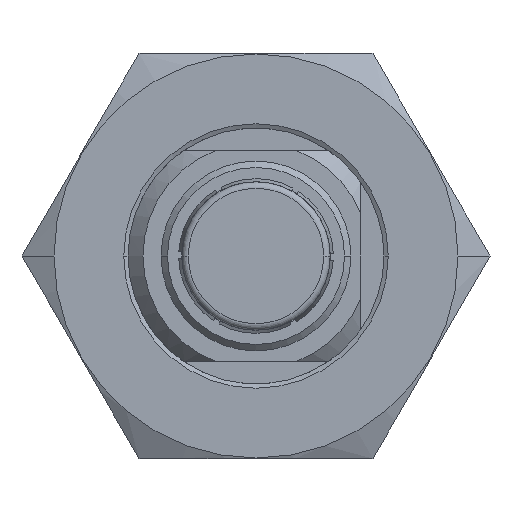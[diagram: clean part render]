
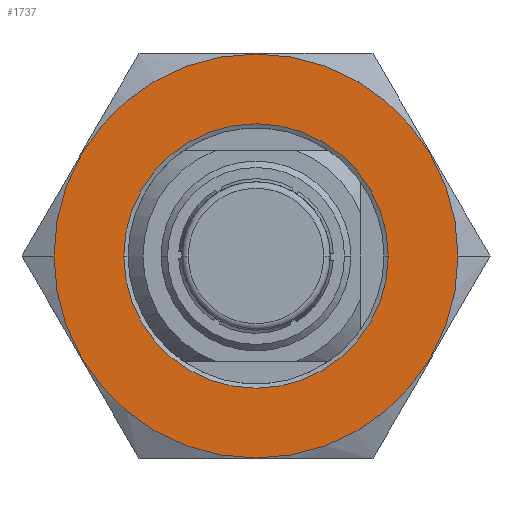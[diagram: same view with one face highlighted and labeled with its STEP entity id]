
A CAD part, front view. The second image highlights one B-rep face of the part: STEP entity #1737.
In plain terms, the highlighted planar face has unit normal (0, -1, 0) as drawn and (-1, 0, 0) by its records, which use the part's own axes.
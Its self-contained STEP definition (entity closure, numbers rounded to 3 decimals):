
#1284=CARTESIAN_POINT('',(0.,0.,0.));
#1285=DIRECTION('',(1.,0.,0.));
#1286=DIRECTION('',(0.,1.,0.));
#1287=AXIS2_PLACEMENT_3D('',#1284,#1285,#1286);
#1292=CARTESIAN_POINT('',(0.,0.,0.));
#1293=DIRECTION('',(1.,0.,0.));
#1294=DIRECTION('',(0.,-1.,0.));
#1295=AXIS2_PLACEMENT_3D('',#1292,#1293,#1294);
#1300=CARTESIAN_POINT('',(0.,0.,0.));
#1301=DIRECTION('',(1.,0.,0.));
#1302=DIRECTION('',(0.,1.,0.));
#1303=AXIS2_PLACEMENT_3D('',#1300,#1301,#1302);
#1308=CARTESIAN_POINT('',(0.,0.,0.));
#1309=DIRECTION('',(1.,0.,0.));
#1310=DIRECTION('',(0.,-1.,0.));
#1311=AXIS2_PLACEMENT_3D('',#1308,#1309,#1310);
#1684=CARTESIAN_POINT('',(0.,9.47,0.));
#1685=CARTESIAN_POINT('',(0.,-9.47,0.));
#1686=VERTEX_POINT('',#1684);
#1687=VERTEX_POINT('',#1685);
#1712=CARTESIAN_POINT('',(0.,6.2,0.));
#1713=CARTESIAN_POINT('',(0.,-6.2,0.));
#1714=VERTEX_POINT('',#1712);
#1715=VERTEX_POINT('',#1713);
#1720=CARTESIAN_POINT('',(0.,0.,0.));
#1721=DIRECTION('',(1.,0.,0.));
#1722=DIRECTION('',(0.,-1.,0.));
#1723=AXIS2_PLACEMENT_3D('',#1720,#1721,#1722);
#1724=PLANE('',#1723);
#1726=ORIENTED_EDGE('',*,*,#1725,.T.);
#1728=ORIENTED_EDGE('',*,*,#1727,.T.);
#1729=EDGE_LOOP('',(#1726,#1728));
#1730=FACE_OUTER_BOUND('',#1729,.F.);
#1732=ORIENTED_EDGE('',*,*,#1731,.F.);
#1734=ORIENTED_EDGE('',*,*,#1733,.F.);
#1735=EDGE_LOOP('',(#1732,#1734));
#1736=FACE_BOUND('',#1735,.F.);
#1288=CIRCLE('',#1287,9.47);
#1296=CIRCLE('',#1295,9.47);
#1304=CIRCLE('',#1303,6.2);
#1312=CIRCLE('',#1311,6.2);
#1725=EDGE_CURVE('',#1686,#1687,#1288,.T.);
#1727=EDGE_CURVE('',#1687,#1686,#1296,.T.);
#1731=EDGE_CURVE('',#1714,#1715,#1304,.T.);
#1733=EDGE_CURVE('',#1715,#1714,#1312,.T.);
#1737=ADVANCED_FACE('',(#1730,#1736),#1724,.F.);
